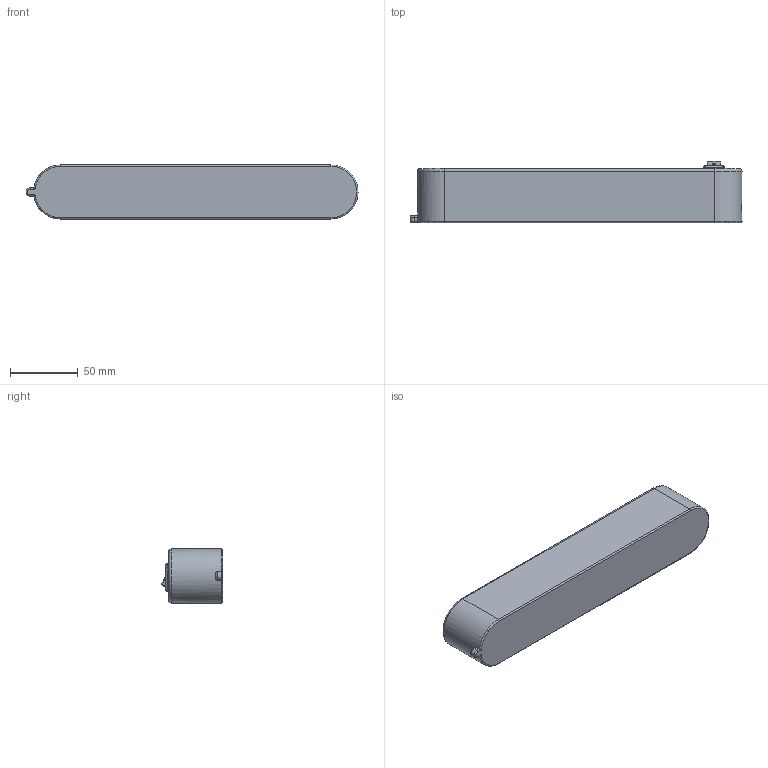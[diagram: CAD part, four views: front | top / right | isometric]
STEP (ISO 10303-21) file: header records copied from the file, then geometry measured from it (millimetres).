
FILE_DESCRIPTION (( 'STEP AP203' ), '1' );
FILE_NAME ('Assieme1_ciabatta_interrutore_.STEP', '2019-03-21T18:43:50', ( '' ), ( '' ), 'SwSTEP 2.0', 'SolidWorks 2019', '' );
FILE_SCHEMA (( 'CONFIG_CONTROL_DESIGN' ));
Length unit declared in the file: millimetre
Products named in the file (6): Assieme1_ciabatta_interrutore_; ARCOLECTRIC_H8600VB.prt; ciabatta; Housing.prt; Rocker.prt; Terminal.prt
Assembly tree (6 placements, depth 3):
  Assieme1_ciabatta_interrutore_
    ciabatta
    ARCOLECTRIC_H8600VB.prt
      Terminal.prt  x2
      Rocker.prt
      Housing.prt
Bounding box: 245.58 x 45.32 x 40 mm (x, y, z)
Volume: 290735.9 mm3; surface area: 54530.2 mm2
Topology: 5 solids, 5 shells, 674 faces, 1875 edges, 1250 vertices
Faces by surface type: plane 250, cylinder 198, torus 116, bspline 75, sphere 35
Entity records: 26669 total; most frequent: CARTESIAN_POINT 9744, ORIENTED_EDGE 3548, DIRECTION 3242, EDGE_CURVE 1774, AXIS2_PLACEMENT_3D 1222, VERTEX_POINT 1211, VECTOR 798, LINE 798
